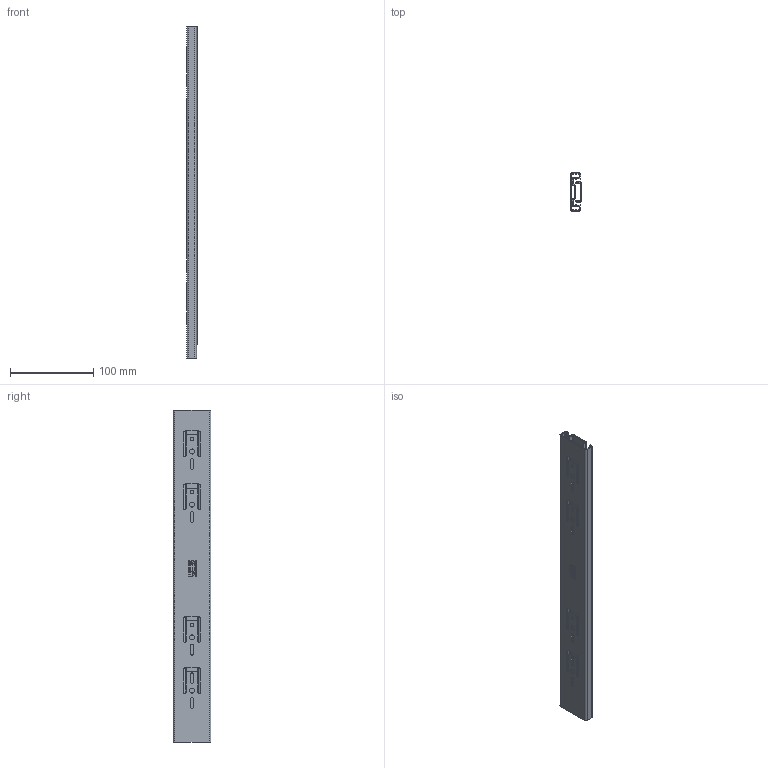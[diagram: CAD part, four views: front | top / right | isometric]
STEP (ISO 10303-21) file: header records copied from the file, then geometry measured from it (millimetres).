
FILE_DESCRIPTION (( 'STEP AP214' ), '1' );
FILE_NAME ('DS400STD-CLOSED.STEP', '2018-11-01T14:59:08', ( '' ), ( '' ), 'SwSTEP 2.0', 'SolidWorks 2017', '' );
FILE_SCHEMA (( 'AUTOMOTIVE_DESIGN' ));
Length unit declared in the file: millimetre
Products named in the file (4): DS-STD-3_400; DS400STD-CLOSED; DS-STD-2_400; DS-STD-1_400
Assembly tree (3 placements, depth 2):
  DS400STD-CLOSED
    DS-STD-3_400
    DS-STD-2_400
    DS-STD-1_400
Bounding box: 12.71 x 45.5 x 400 mm (x, y, z)
Volume: 73511.2 mm3; surface area: 121811.5 mm2
Topology: 3 solids, 3 shells, 823 faces, 2253 edges, 1502 vertices
Faces by surface type: plane 479, bspline 237, cylinder 107
Entity records: 27745 total; most frequent: CARTESIAN_POINT 8013, ORIENTED_EDGE 4506, DIRECTION 3177, EDGE_CURVE 2253, LINE 1565, VECTOR 1565, VERTEX_POINT 1502, EDGE_LOOP 939
